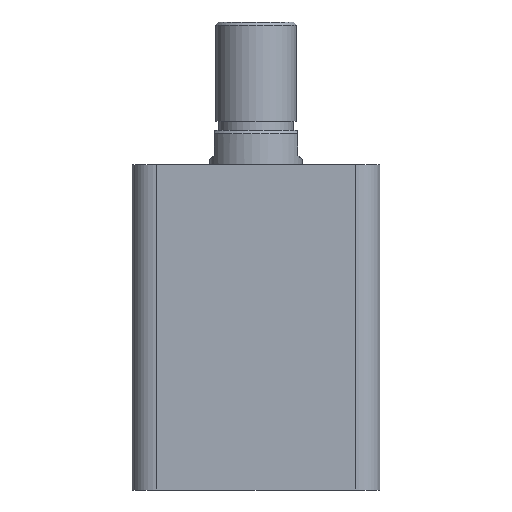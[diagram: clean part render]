
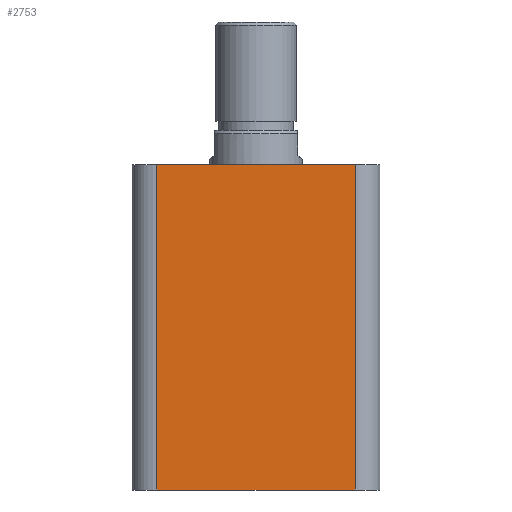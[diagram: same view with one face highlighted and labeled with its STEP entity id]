
A CAD part, front view. The second image highlights one B-rep face of the part: STEP entity #2753.
In plain terms, the highlighted planar face has unit normal (0, -1, 0).
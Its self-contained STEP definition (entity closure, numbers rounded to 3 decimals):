
#28 = DIRECTION ( 'NONE',  ( 0., 0., 1. ) ) ;
#201 = CARTESIAN_POINT ( 'NONE',  ( -40., -40., 0. ) ) ;
#215 = CARTESIAN_POINT ( 'NONE',  ( -40., -40., 105. ) ) ;
#216 = DIRECTION ( 'NONE',  ( 1., 0., 0. ) ) ;
#217 = CARTESIAN_POINT ( 'NONE',  ( -32., -40., 105. ) ) ;
#218 = DIRECTION ( 'NONE',  ( 0., 0., -1. ) ) ;
#219 = DIRECTION ( 'NONE',  ( 1., 0., 0. ) ) ;
#220 = CARTESIAN_POINT ( 'NONE',  ( 32., -40., 105. ) ) ;
#332 = ORIENTED_EDGE ( 'NONE', *, *, #1495, .F. ) ;
#439 = VECTOR ( 'NONE', #28, 1000. ) ;
#444 = VECTOR ( 'NONE', #219, 1000. ) ;
#445 = LINE ( 'NONE', #220, #439 ) ;
#447 = VECTOR ( 'NONE', #218, 1000. ) ;
#452 = VECTOR ( 'NONE', #216, 1000. ) ;
#453 = LINE ( 'NONE', #217, #447 ) ;
#457 = LINE ( 'NONE', #215, #452 ) ;
#468 = LINE ( 'NONE', #201, #444 ) ;
#631 = EDGE_LOOP ( 'NONE', ( #332, #734, #748, #792 ) ) ;
#734 = ORIENTED_EDGE ( 'NONE', *, *, #1496, .T. ) ;
#748 = ORIENTED_EDGE ( 'NONE', *, *, #1497, .T. ) ;
#792 = ORIENTED_EDGE ( 'NONE', *, *, #1498, .T. ) ;
#1474 = DIRECTION ( 'NONE',  ( 0., 0., 1. ) ) ;
#1475 = DIRECTION ( 'NONE',  ( 0., 1., 0. ) ) ;
#1476 = PLANE ( 'NONE',  #2594 ) ;
#1487 = CARTESIAN_POINT ( 'NONE',  ( -40., -40., 105. ) ) ;
#1495 = EDGE_CURVE ( 'NONE', #1661, #1642, #457, .T. ) ;
#1496 = EDGE_CURVE ( 'NONE', #1661, #1625, #453, .T. ) ;
#1497 = EDGE_CURVE ( 'NONE', #1625, #1634, #468, .T. ) ;
#1498 = EDGE_CURVE ( 'NONE', #1634, #1642, #445, .T. ) ;
#1625 = VERTEX_POINT ( 'NONE', #2378 ) ;
#1634 = VERTEX_POINT ( 'NONE', #2367 ) ;
#1642 = VERTEX_POINT ( 'NONE', #2355 ) ;
#1661 = VERTEX_POINT ( 'NONE', #2329 ) ;
#2329 = CARTESIAN_POINT ( 'NONE',  ( -32., -40., 105. ) ) ;
#2355 = CARTESIAN_POINT ( 'NONE',  ( 32., -40., 105. ) ) ;
#2367 = CARTESIAN_POINT ( 'NONE',  ( 32., -40., 0. ) ) ;
#2378 = CARTESIAN_POINT ( 'NONE',  ( -32., -40., 0. ) ) ;
#2422 = FACE_OUTER_BOUND ( 'NONE', #631, .T. ) ;
#2594 = AXIS2_PLACEMENT_3D ( 'NONE', #1487, #1475, #1474 ) ;
#2753 = ADVANCED_FACE ( 'NONE', ( #2422 ), #1476, .F. ) ;
